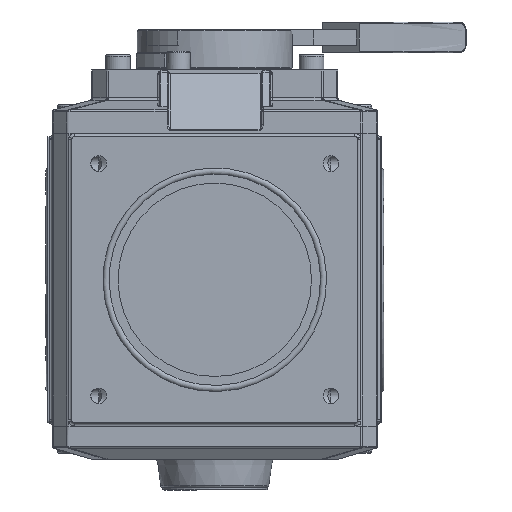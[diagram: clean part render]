
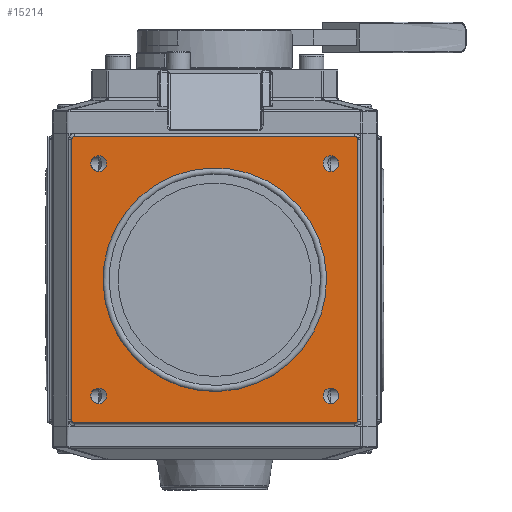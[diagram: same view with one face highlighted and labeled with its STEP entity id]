
A CAD part, left-side view. The second image highlights one B-rep face of the part: STEP entity #15214.
In plain terms, the highlighted planar face has unit normal (-1, 0, 0).
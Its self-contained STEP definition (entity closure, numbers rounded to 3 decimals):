
#654=FACE_BOUND('',#3519,.T.);
#655=FACE_BOUND('',#3520,.T.);
#656=FACE_BOUND('',#3521,.T.);
#657=FACE_BOUND('',#3522,.T.);
#658=FACE_BOUND('',#3523,.T.);
#1852=PLANE('',#16582);
#2553=FACE_OUTER_BOUND('',#3518,.T.);
#3518=EDGE_LOOP('',(#12706,#12707,#12708,#12709,#12710,#12711,#12712,#12713));
#3519=EDGE_LOOP('',(#12714));
#3520=EDGE_LOOP('',(#12715));
#3521=EDGE_LOOP('',(#12716));
#3522=EDGE_LOOP('',(#12717));
#3523=EDGE_LOOP('',(#12718));
#4513=LINE('',#28884,#5479);
#4514=LINE('',#28888,#5480);
#4515=LINE('',#28892,#5481);
#4516=LINE('',#28896,#5482);
#5479=VECTOR('',#19835,10.);
#5480=VECTOR('',#19838,10.);
#5481=VECTOR('',#19841,10.);
#5482=VECTOR('',#19844,10.);
#5859=CIRCLE('',#15675,72.213);
#6319=CIRCLE('',#16583,2.);
#6320=CIRCLE('',#16584,2.);
#6321=CIRCLE('',#16585,2.);
#6322=CIRCLE('',#16586,2.);
#6323=CIRCLE('',#16587,5.053);
#6324=CIRCLE('',#16588,5.053);
#6325=CIRCLE('',#16589,5.053);
#6326=CIRCLE('',#16590,5.053);
#6704=VERTEX_POINT('',#21765);
#7487=VERTEX_POINT('',#28882);
#7488=VERTEX_POINT('',#28883);
#7489=VERTEX_POINT('',#28885);
#7490=VERTEX_POINT('',#28887);
#7491=VERTEX_POINT('',#28889);
#7492=VERTEX_POINT('',#28891);
#7493=VERTEX_POINT('',#28893);
#7494=VERTEX_POINT('',#28895);
#7495=VERTEX_POINT('',#28898);
#7496=VERTEX_POINT('',#28900);
#7497=VERTEX_POINT('',#28902);
#7498=VERTEX_POINT('',#28904);
#8038=EDGE_CURVE('',#6704,#6704,#5859,.T.);
#9301=EDGE_CURVE('',#7487,#7488,#4513,.T.);
#9302=EDGE_CURVE('',#7489,#7487,#6319,.T.);
#9303=EDGE_CURVE('',#7490,#7489,#4514,.T.);
#9304=EDGE_CURVE('',#7491,#7490,#6320,.T.);
#9305=EDGE_CURVE('',#7492,#7491,#4515,.T.);
#9306=EDGE_CURVE('',#7493,#7492,#6321,.T.);
#9307=EDGE_CURVE('',#7494,#7493,#4516,.T.);
#9308=EDGE_CURVE('',#7488,#7494,#6322,.T.);
#9309=EDGE_CURVE('',#7495,#7495,#6323,.T.);
#9310=EDGE_CURVE('',#7496,#7496,#6324,.T.);
#9311=EDGE_CURVE('',#7497,#7497,#6325,.T.);
#9312=EDGE_CURVE('',#7498,#7498,#6326,.T.);
#12706=ORIENTED_EDGE('',*,*,#9301,.F.);
#12707=ORIENTED_EDGE('',*,*,#9302,.F.);
#12708=ORIENTED_EDGE('',*,*,#9303,.F.);
#12709=ORIENTED_EDGE('',*,*,#9304,.F.);
#12710=ORIENTED_EDGE('',*,*,#9305,.F.);
#12711=ORIENTED_EDGE('',*,*,#9306,.F.);
#12712=ORIENTED_EDGE('',*,*,#9307,.F.);
#12713=ORIENTED_EDGE('',*,*,#9308,.F.);
#12714=ORIENTED_EDGE('',*,*,#8038,.T.);
#12715=ORIENTED_EDGE('',*,*,#9309,.T.);
#12716=ORIENTED_EDGE('',*,*,#9310,.T.);
#12717=ORIENTED_EDGE('',*,*,#9311,.T.);
#12718=ORIENTED_EDGE('',*,*,#9312,.T.);
#15214=ADVANCED_FACE('',(#2553,#654,#655,#656,#657,#658),#1852,.T.);
#15675=AXIS2_PLACEMENT_3D('',#21767,#17457,#17458);
#16582=AXIS2_PLACEMENT_3D('',#28881,#19833,#19834);
#16583=AXIS2_PLACEMENT_3D('',#28886,#19836,#19837);
#16584=AXIS2_PLACEMENT_3D('',#28890,#19839,#19840);
#16585=AXIS2_PLACEMENT_3D('',#28894,#19842,#19843);
#16586=AXIS2_PLACEMENT_3D('',#28897,#19845,#19846);
#16587=AXIS2_PLACEMENT_3D('',#28899,#19847,#19848);
#16588=AXIS2_PLACEMENT_3D('',#28901,#19849,#19850);
#16589=AXIS2_PLACEMENT_3D('',#28903,#19851,#19852);
#16590=AXIS2_PLACEMENT_3D('',#28905,#19853,#19854);
#17457=DIRECTION('center_axis',(1.,0.,0.));
#17458=DIRECTION('ref_axis',(0.,0.,1.));
#19833=DIRECTION('center_axis',(-1.,0.,0.));
#19834=DIRECTION('ref_axis',(0.,0.,
-1.));
#19835=DIRECTION('',(0.,0.,-1.));
#19836=DIRECTION('center_axis',(1.,0.,0.));
#19837=DIRECTION('ref_axis',(0.,-0.707,0.707));
#19838=DIRECTION('',(0.,-1.,0.));
#19839=DIRECTION('center_axis',(1.,0.,0.));
#19840=DIRECTION('ref_axis',(0.,0.707,0.707));
#19841=DIRECTION('',(0.,0.,1.));
#19842=DIRECTION('center_axis',(1.,0.,0.));
#19843=DIRECTION('ref_axis',(0.,0.707,-0.707));
#19844=DIRECTION('',(0.,1.,0.));
#19845=DIRECTION('center_axis',(1.,0.,0.));
#19846=DIRECTION('ref_axis',(0.,-0.707,-0.707));
#19847=DIRECTION('center_axis',(1.,0.,0.));
#19848=DIRECTION('ref_axis',(0.,0.,
-1.));
#19849=DIRECTION('center_axis',(1.,0.,0.));
#19850=DIRECTION('ref_axis',(0.,0.,
-1.));
#19851=DIRECTION('center_axis',(1.,0.,0.));
#19852=DIRECTION('ref_axis',(0.,0.,
-1.));
#19853=DIRECTION('center_axis',(1.,0.,0.));
#19854=DIRECTION('ref_axis',(0.,0.,
-1.));
#21765=CARTESIAN_POINT('',(-108.,-61.183,-20.379));
#21767=CARTESIAN_POINT('Origin',(-108.,0.,-58.737));
#28881=CARTESIAN_POINT('Origin',(-108.,0.,-58.737));
#28882=CARTESIAN_POINT('',(-108.,-92.5,31.763));
#28883=CARTESIAN_POINT('',(-108.,-92.5,-149.237));
#28884=CARTESIAN_POINT('',(-108.,-92.5,-104.987));
#28885=CARTESIAN_POINT('',(-108.,-90.5,33.763));
#28886=CARTESIAN_POINT('Origin',(-108.,-90.5,31.763));
#28887=CARTESIAN_POINT('',(-108.,90.5,33.763));
#28888=CARTESIAN_POINT('',(-108.,-46.25,33.763));
#28889=CARTESIAN_POINT('',(-108.,92.5,31.763));
#28890=CARTESIAN_POINT('Origin',(-108.,90.5,31.763));
#28891=CARTESIAN_POINT('',(-108.,92.5,-149.237));
#28892=CARTESIAN_POINT('',(-108.,92.5,-12.487));
#28893=CARTESIAN_POINT('',(-108.,90.5,-151.237));
#28894=CARTESIAN_POINT('Origin',(-108.,90.5,-149.237));
#28895=CARTESIAN_POINT('',(-108.,-90.5,-151.237));
#28896=CARTESIAN_POINT('',(-108.,46.25,-151.237));
#28897=CARTESIAN_POINT('Origin',(-108.,-90.5,-149.237));
#28898=CARTESIAN_POINT('',(-108.,-75.,-128.684));
#28899=CARTESIAN_POINT('Origin',(-108.,-75.,-133.737));
#28900=CARTESIAN_POINT('',(-108.,75.,21.316));
#28901=CARTESIAN_POINT('Origin',(-108.,75.,16.263));
#28902=CARTESIAN_POINT('',(-108.,75.,-128.684));
#28903=CARTESIAN_POINT('Origin',(-108.,75.,-133.737));
#28904=CARTESIAN_POINT('',(-108.,-75.,21.316));
#28905=CARTESIAN_POINT('Origin',(-108.,-75.,16.263));
